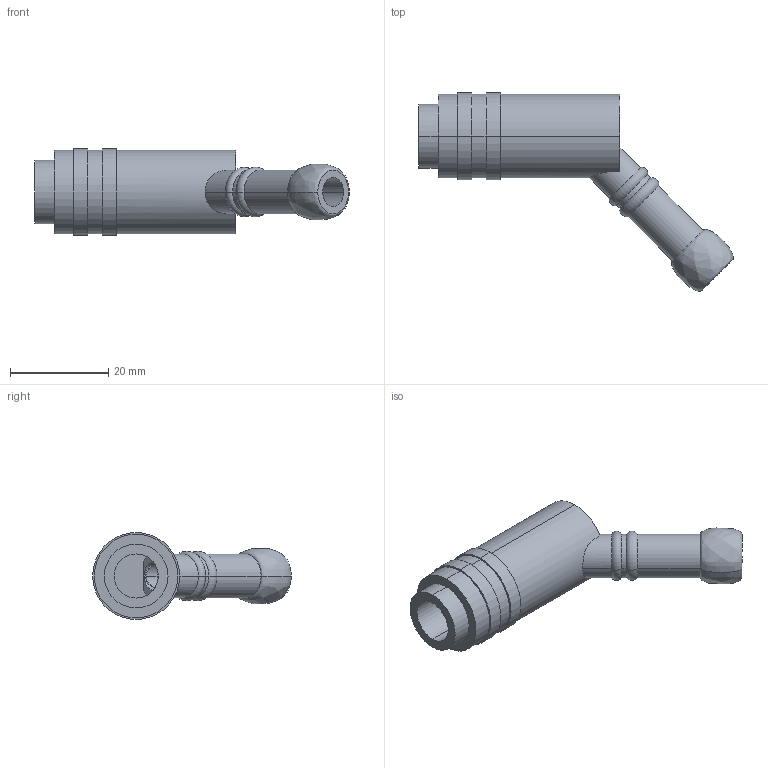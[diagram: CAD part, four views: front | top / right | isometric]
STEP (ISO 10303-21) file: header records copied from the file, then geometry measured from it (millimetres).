
FILE_DESCRIPTION (( 'STEP AP214' ), '1' );
FILE_NAME ('BR801-09-45.STEP', '2020-06-22T14:44:03', ( '' ), ( '' ), 'SwSTEP 2.0', 'SolidWorks 2018', '' );
FILE_SCHEMA (( 'AUTOMOTIVE_DESIGN' ));
Length unit declared in the file: millimetre
Products named in the file (1): BR801-09-45
Bounding box: 64.1 x 40.45 x 17.71 mm (x, y, z)
Volume: 7834.4 mm3; surface area: 5340.5 mm2
Topology: 1 solids, 1 shells, 48 faces, 113 edges, 72 vertices
Faces by surface type: cylinder 29, plane 13, torus 4, bspline 2
Entity records: 1584 total; most frequent: CARTESIAN_POINT 473, DIRECTION 233, ORIENTED_EDGE 226, EDGE_CURVE 113, AXIS2_PLACEMENT_3D 104, VERTEX_POINT 72, CIRCLE 57, EDGE_LOOP 55
